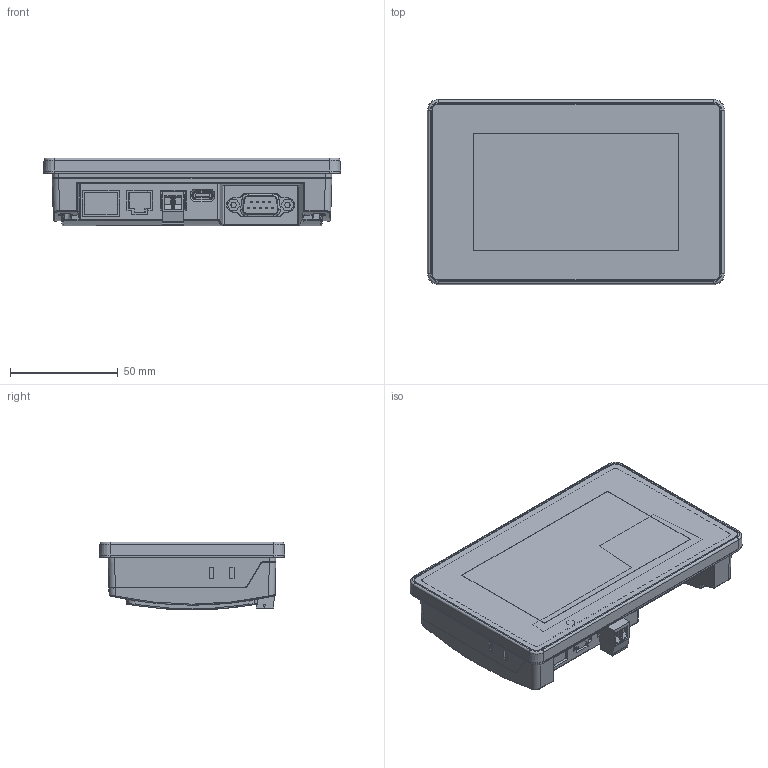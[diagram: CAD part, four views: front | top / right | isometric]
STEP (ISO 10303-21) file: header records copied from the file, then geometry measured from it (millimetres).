
FILE_DESCRIPTION(('TFLEX Exchange Step'),'2;1');
FILE_NAME('RSC-4E и RSC-4E (ver. 2.0).step', '2026-02-10T14:22:58+03:00',('Artem'),('Unknown organisation'),'TFLEX Exchange 2024.6','T-FLEX CAD','Unknown authorisation');
FILE_SCHEMA( ('AUTOMOTIVE_DESIGN { 1 0 10303 214 1 1 1 1 }') );
Length unit declared in the file: millimetre
Products named in the file (1): Nodes
Bounding box: 138 x 86 x 31.5 mm (x, y, z)
Volume: 245433.4 mm3; surface area: 66264.9 mm2
Topology: 1 solids, 3 shells, 903 faces, 2491 edges, 1600 vertices
Faces by surface type: plane 534, cylinder 159, cone 81, bspline 78, torus 24, sphere 15, extrusion 12
Full cylindrical faces by diameter (mm): 0.67 x9, 2.5 x3, 3.82 x2, 4.05 x2, 4.1 x2, 4.326 x2
Entity records: 34215 total; most frequent: CARTESIAN_POINT 12297, ORIENTED_EDGE 4942, DIRECTION 4012, EDGE_CURVE 2471, VERTEX_POINT 1598, VECTOR 1504, LINE 1492, AXIS2_PLACEMENT_3D 1254
